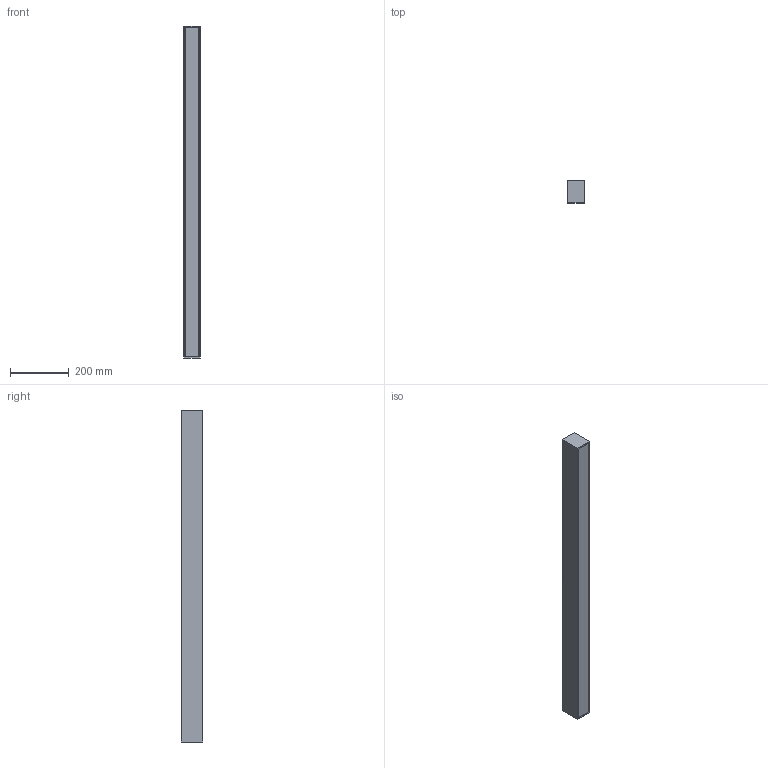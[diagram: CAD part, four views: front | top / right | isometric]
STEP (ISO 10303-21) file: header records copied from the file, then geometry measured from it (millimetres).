
FILE_DESCRIPTION (( 'STEP AP214' ), '1' );
FILE_NAME ('mLight KleoX58 LED_1134mm_Direct.STEP', '2020-06-15T23:54:14', ( '' ), ( '' ), 'SwSTEP 2.0', 'SolidWorks 2017', '' );
FILE_SCHEMA (( 'AUTOMOTIVE_DESIGN' ));
Length unit declared in the file: millimetre
Products named in the file (1): mLight KleoX58 LED_1134mm_Direct
Bounding box: 58 x 75 x 1134 mm (x, y, z)
Volume: 4343597.3 mm3; surface area: 374237.2 mm2
Topology: 1 solids, 1 shells, 79 faces, 225 edges, 150 vertices
Faces by surface type: plane 41, cylinder 38
Entity records: 2629 total; most frequent: DIRECTION 461, CARTESIAN_POINT 455, ORIENTED_EDGE 450, EDGE_CURVE 225, AXIS2_PLACEMENT_3D 156, VERTEX_POINT 150, VECTOR 149, LINE 149
